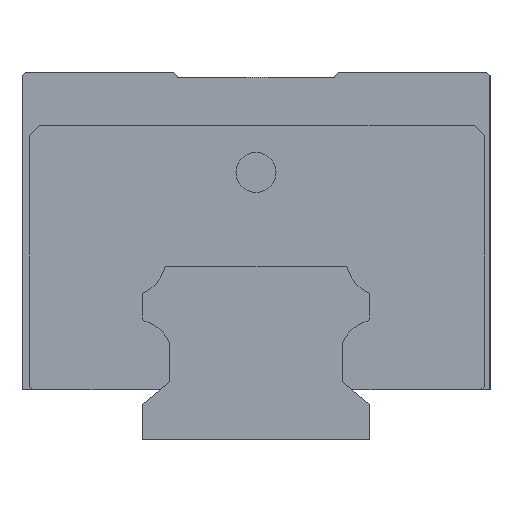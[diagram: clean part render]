
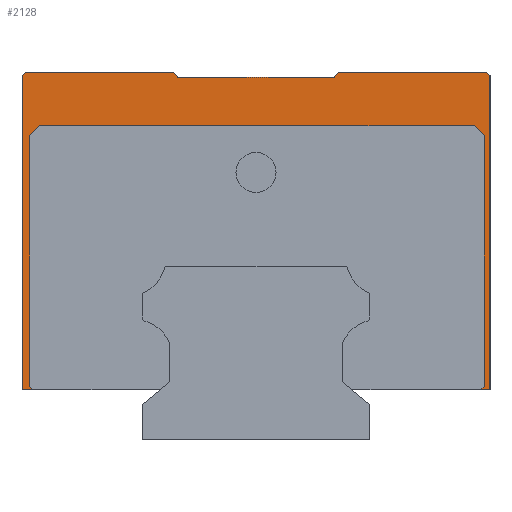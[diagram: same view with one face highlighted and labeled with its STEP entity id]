
A CAD part, left-side view. The second image highlights one B-rep face of the part: STEP entity #2128.
In plain terms, the highlighted planar face has unit normal (-1, 0, 0).
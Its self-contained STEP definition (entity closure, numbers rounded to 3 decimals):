
#27 = LINE ( 'NONE', #1530, #669 ) ;
#35 = VERTEX_POINT ( 'NONE', #508 ) ;
#102 = VERTEX_POINT ( 'NONE', #1510 ) ;
#117 = DIRECTION ( 'NONE',  ( 0., 1., 0. ) ) ;
#174 = DIRECTION ( 'NONE',  ( 0., -0.707, -0.707 ) ) ;
#208 = DIRECTION ( 'NONE',  ( 0., 0.707, -0.707 ) ) ;
#290 = ORIENTED_EDGE ( 'NONE', *, *, #4731, .T. ) ;
#344 = LINE ( 'NONE', #5224, #2837 ) ;
#409 = VECTOR ( 'NONE', #976, 1000. ) ;
#436 = LINE ( 'NONE', #5251, #5298 ) ;
#508 = CARTESIAN_POINT ( 'NONE',  ( -39.5, -32.628, 47. ) ) ;
#513 = VERTEX_POINT ( 'NONE', #1892 ) ;
#577 = VECTOR ( 'NONE', #5289, 1000. ) ;
#606 = EDGE_CURVE ( 'NONE', #513, #2335, #1123, .T. ) ;
#637 = VERTEX_POINT ( 'NONE', #5176 ) ;
#664 = VERTEX_POINT ( 'NONE', #4370 ) ;
#669 = VECTOR ( 'NONE', #5547, 1000. ) ;
#685 = EDGE_CURVE ( 'NONE', #1811, #1717, #436, .T. ) ;
#695 = CARTESIAN_POINT ( 'NONE',  ( -39.5, -35., 7.5 ) ) ;
#779 = ORIENTED_EDGE ( 'NONE', *, *, #5478, .F. ) ;
#809 = CARTESIAN_POINT ( 'NONE',  ( -39.5, -34.5, 55. ) ) ;
#817 = DIRECTION ( 'NONE',  ( 0., 0.643, -0.766 ) ) ;
#859 = ORIENTED_EDGE ( 'NONE', *, *, #685, .F. ) ;
#875 = CARTESIAN_POINT ( 'NONE',  ( -39.5, -35., 55. ) ) ;
#880 = DIRECTION ( 'NONE',  ( 0., 0.643, 0.766 ) ) ;
#976 = DIRECTION ( 'NONE',  ( 0., -1., 0. ) ) ;
#1042 = EDGE_CURVE ( 'NONE', #2355, #1341, #3077, .T. ) ;
#1072 = LINE ( 'NONE', #3832, #2757 ) ;
#1106 = VERTEX_POINT ( 'NONE', #1316 ) ;
#1113 = EDGE_CURVE ( 'NONE', #4260, #1654, #344, .T. ) ;
#1123 = LINE ( 'NONE', #2513, #4381 ) ;
#1316 = CARTESIAN_POINT ( 'NONE',  ( -39.5, 33.372, 7.5 ) ) ;
#1341 = VERTEX_POINT ( 'NONE', #5650 ) ;
#1359 = LINE ( 'NONE', #2691, #4888 ) ;
#1397 = VERTEX_POINT ( 'NONE', #809 ) ;
#1418 = CARTESIAN_POINT ( 'NONE',  ( -39.5, 33.872, 45.5 ) ) ;
#1434 = VECTOR ( 'NONE', #4291, 1000. ) ;
#1456 = ORIENTED_EDGE ( 'NONE', *, *, #3302, .F. ) ;
#1462 = EDGE_CURVE ( 'NONE', #664, #3557, #3905, .T. ) ;
#1510 = CARTESIAN_POINT ( 'NONE',  ( -39.5, -12.296, 55. ) ) ;
#1530 = CARTESIAN_POINT ( 'NONE',  ( -39.5, -34.128, 45.5 ) ) ;
#1654 = VERTEX_POINT ( 'NONE', #2028 ) ;
#1657 = EDGE_CURVE ( 'NONE', #2316, #2335, #5217, .T. ) ;
#1713 = CARTESIAN_POINT ( 'NONE',  ( -39.5, -11.667, 54.25 ) ) ;
#1717 = VERTEX_POINT ( 'NONE', #3434 ) ;
#1726 = CARTESIAN_POINT ( 'NONE',  ( -39.5, -33.628, 7.5 ) ) ;
#1757 = CARTESIAN_POINT ( 'NONE',  ( -39.5, -34.128, 8. ) ) ;
#1773 = CARTESIAN_POINT ( 'NONE',  ( -39.5, 35., 7.5 ) ) ;
#1788 = ORIENTED_EDGE ( 'NONE', *, *, #2797, .F. ) ;
#1811 = VERTEX_POINT ( 'NONE', #1757 ) ;
#1833 = ORIENTED_EDGE ( 'NONE', *, *, #2514, .T. ) ;
#1892 = CARTESIAN_POINT ( 'NONE',  ( -39.5, 34.5, 55. ) ) ;
#1934 = ORIENTED_EDGE ( 'NONE', *, *, #1657, .F. ) ;
#1949 = CARTESIAN_POINT ( 'NONE',  ( -39.5, 11.667, 54.25 ) ) ;
#1965 = DIRECTION ( 'NONE',  ( 0., 0., 1. ) ) ;
#1998 = VECTOR ( 'NONE', #817, 1000. ) ;
#2008 = VECTOR ( 'NONE', #2427, 1000. ) ;
#2009 = VERTEX_POINT ( 'NONE', #2348 ) ;
#2028 = CARTESIAN_POINT ( 'NONE',  ( -39.5, 12.296, 55. ) ) ;
#2076 = DIRECTION ( 'NONE',  ( 1., 0., 0. ) ) ;
#2128 = ADVANCED_FACE ( 'NONE', ( #4750 ), #5590, .F. ) ;
#2209 = CARTESIAN_POINT ( 'NONE',  ( -39.5, 33.872, 45.5 ) ) ;
#2282 = VECTOR ( 'NONE', #174, 1000. ) ;
#2316 = VERTEX_POINT ( 'NONE', #1773 ) ;
#2335 = VERTEX_POINT ( 'NONE', #5407 ) ;
#2348 = CARTESIAN_POINT ( 'NONE',  ( -39.5, -35., 54.5 ) ) ;
#2355 = VERTEX_POINT ( 'NONE', #1418 ) ;
#2362 = VECTOR ( 'NONE', #1965, 1000. ) ;
#2394 = LINE ( 'NONE', #4189, #2282 ) ;
#2427 = DIRECTION ( 'NONE',  ( 0., 0.707, 0.707 ) ) ;
#2469 = LINE ( 'NONE', #3842, #5746 ) ;
#2509 = EDGE_CURVE ( 'NONE', #3909, #4260, #1072, .T. ) ;
#2513 = CARTESIAN_POINT ( 'NONE',  ( -39.5, 34.5, 55. ) ) ;
#2514 = EDGE_CURVE ( 'NONE', #2009, #1397, #5178, .T. ) ;
#2532 = ORIENTED_EDGE ( 'NONE', *, *, #1113, .T. ) ;
#2691 = CARTESIAN_POINT ( 'NONE',  ( -39.5, 32.372, 47. ) ) ;
#2707 = LINE ( 'NONE', #875, #5557 ) ;
#2757 = VECTOR ( 'NONE', #4248, 1000. ) ;
#2797 = EDGE_CURVE ( 'NONE', #102, #1397, #3617, .T. ) ;
#2831 = ORIENTED_EDGE ( 'NONE', *, *, #3926, .F. ) ;
#2836 = VECTOR ( 'NONE', #117, 1000. ) ;
#2837 = VECTOR ( 'NONE', #880, 1000. ) ;
#2875 = ORIENTED_EDGE ( 'NONE', *, *, #1042, .F. ) ;
#2904 = ORIENTED_EDGE ( 'NONE', *, *, #606, .T. ) ;
#3003 = LINE ( 'NONE', #3480, #577 ) ;
#3040 = EDGE_CURVE ( 'NONE', #2009, #664, #2707, .T. ) ;
#3077 = LINE ( 'NONE', #2209, #4990 ) ;
#3182 = EDGE_CURVE ( 'NONE', #1106, #2316, #5476, .T. ) ;
#3302 = EDGE_CURVE ( 'NONE', #513, #1654, #2469, .T. ) ;
#3316 = ORIENTED_EDGE ( 'NONE', *, *, #3182, .F. ) ;
#3360 = CARTESIAN_POINT ( 'NONE',  ( -39.5, -35., 54.5 ) ) ;
#3434 = CARTESIAN_POINT ( 'NONE',  ( -39.5, -34.128, 45.5 ) ) ;
#3480 = CARTESIAN_POINT ( 'NONE',  ( -39.5, -33.628, 7.5 ) ) ;
#3495 = DIRECTION ( 'NONE',  ( 0., 0., -1. ) ) ;
#3502 = VECTOR ( 'NONE', #5504, 1000. ) ;
#3557 = VERTEX_POINT ( 'NONE', #1726 ) ;
#3617 = LINE ( 'NONE', #4996, #409 ) ;
#3621 = DIRECTION ( 'NONE',  ( 0., 0.707, -0.707 ) ) ;
#3744 = CARTESIAN_POINT ( 'NONE',  ( -39.5, -32.628, 47. ) ) ;
#3759 = DIRECTION ( 'NONE',  ( 0., 1., 0. ) ) ;
#3761 = EDGE_LOOP ( 'NONE', ( #859, #2831, #4924, #5353, #1833, #1788, #290, #5105, #2532, #1456, #2904, #1934, #3316, #779, #2875, #3811, #4220, #4004 ) ) ;
#3811 = ORIENTED_EDGE ( 'NONE', *, *, #5330, .F. ) ;
#3832 = CARTESIAN_POINT ( 'NONE',  ( -39.5, -11.667, 54.25 ) ) ;
#3842 = CARTESIAN_POINT ( 'NONE',  ( -39.5, 35., 55. ) ) ;
#3905 = LINE ( 'NONE', #695, #1434 ) ;
#3909 = VERTEX_POINT ( 'NONE', #1713 ) ;
#3926 = EDGE_CURVE ( 'NONE', #3557, #1811, #3003, .T. ) ;
#3978 = DIRECTION ( 'NONE',  ( 0., 0., -1. ) ) ;
#4004 = ORIENTED_EDGE ( 'NONE', *, *, #5436, .F. ) ;
#4189 = CARTESIAN_POINT ( 'NONE',  ( -39.5, 33.872, 8. ) ) ;
#4201 = CARTESIAN_POINT ( 'NONE',  ( -39.5, -35., 55. ) ) ;
#4220 = ORIENTED_EDGE ( 'NONE', *, *, #4276, .F. ) ;
#4248 = DIRECTION ( 'NONE',  ( 0., 1., 0. ) ) ;
#4260 = VERTEX_POINT ( 'NONE', #1949 ) ;
#4276 = EDGE_CURVE ( 'NONE', #35, #637, #5603, .T. ) ;
#4291 = DIRECTION ( 'NONE',  ( 0., 1., 0. ) ) ;
#4360 = LINE ( 'NONE', #5660, #1998 ) ;
#4370 = CARTESIAN_POINT ( 'NONE',  ( -39.5, -35., 7.5 ) ) ;
#4381 = VECTOR ( 'NONE', #208, 1000. ) ;
#4673 = CARTESIAN_POINT ( 'NONE',  ( -39.5, 35., 7.5 ) ) ;
#4731 = EDGE_CURVE ( 'NONE', #102, #3909, #4360, .T. ) ;
#4750 = FACE_OUTER_BOUND ( 'NONE', #3761, .T. ) ;
#4888 = VECTOR ( 'NONE', #3621, 1000. ) ;
#4924 = ORIENTED_EDGE ( 'NONE', *, *, #1462, .F. ) ;
#4990 = VECTOR ( 'NONE', #3978, 1000. ) ;
#4996 = CARTESIAN_POINT ( 'NONE',  ( -39.5, 35., 55. ) ) ;
#5070 = CARTESIAN_POINT ( 'NONE',  ( -39.5, 14.65, 7.5 ) ) ;
#5105 = ORIENTED_EDGE ( 'NONE', *, *, #2509, .T. ) ;
#5176 = CARTESIAN_POINT ( 'NONE',  ( -39.5, 32.372, 47. ) ) ;
#5178 = LINE ( 'NONE', #3360, #2008 ) ;
#5217 = LINE ( 'NONE', #4673, #2362 ) ;
#5224 = CARTESIAN_POINT ( 'NONE',  ( -39.5, 11.667, 54.25 ) ) ;
#5251 = CARTESIAN_POINT ( 'NONE',  ( -39.5, -34.128, 8. ) ) ;
#5289 = DIRECTION ( 'NONE',  ( 0., -0.707, 0.707 ) ) ;
#5298 = VECTOR ( 'NONE', #5725, 1000. ) ;
#5330 = EDGE_CURVE ( 'NONE', #637, #2355, #1359, .T. ) ;
#5353 = ORIENTED_EDGE ( 'NONE', *, *, #3040, .F. ) ;
#5407 = CARTESIAN_POINT ( 'NONE',  ( -39.5, 35., 54.5 ) ) ;
#5420 = AXIS2_PLACEMENT_3D ( 'NONE', #4201, #2076, #3759 ) ;
#5436 = EDGE_CURVE ( 'NONE', #1717, #35, #27, .T. ) ;
#5476 = LINE ( 'NONE', #5070, #3502 ) ;
#5478 = EDGE_CURVE ( 'NONE', #1341, #1106, #2394, .T. ) ;
#5504 = DIRECTION ( 'NONE',  ( 0., 1., 0. ) ) ;
#5547 = DIRECTION ( 'NONE',  ( 0., 0.707, 0.707 ) ) ;
#5557 = VECTOR ( 'NONE', #3495, 1000. ) ;
#5590 = PLANE ( 'NONE',  #5420 ) ;
#5603 = LINE ( 'NONE', #3744, #2836 ) ;
#5617 = DIRECTION ( 'NONE',  ( 0., -1., 0. ) ) ;
#5650 = CARTESIAN_POINT ( 'NONE',  ( -39.5, 33.872, 8. ) ) ;
#5660 = CARTESIAN_POINT ( 'NONE',  ( -39.5, -12.296, 55. ) ) ;
#5725 = DIRECTION ( 'NONE',  ( 0., 0., 1. ) ) ;
#5746 = VECTOR ( 'NONE', #5617, 1000. ) ;
